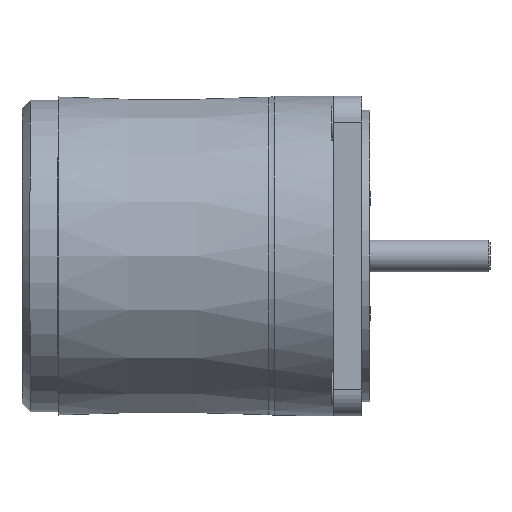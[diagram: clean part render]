
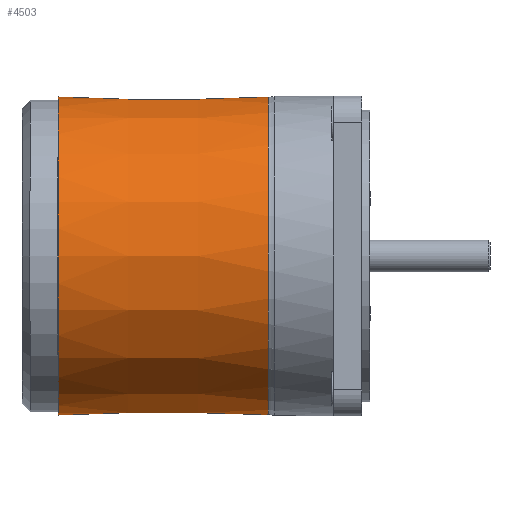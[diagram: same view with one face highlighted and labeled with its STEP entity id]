
A CAD part, front view. The second image highlights one B-rep face of the part: STEP entity #4503.
In plain terms, the highlighted conical face has half-angle 0.073 degrees and reference radius 39.784 mm.
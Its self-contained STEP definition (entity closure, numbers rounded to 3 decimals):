
#116=(
BOUNDED_CURVE()
B_SPLINE_CURVE(2,(#8074,#8075,#8076),.UNSPECIFIED.,.F.,.F.)
B_SPLINE_CURVE_WITH_KNOTS((3,3),(0.114,3.908),
 .UNSPECIFIED.)
CURVE()
GEOMETRIC_REPRESENTATION_ITEM()
RATIONAL_B_SPLINE_CURVE((1.,1.,1.))
REPRESENTATION_ITEM('')
);
#172=FACE_BOUND('',#957,.T.);
#242=CONICAL_SURFACE('',#4943,39.784,0.073);
#299=B_SPLINE_CURVE_WITH_KNOTS('',3,(#8061,#8062,#8063,#8064,#8065,#8066,
#8067,#8068,#8069,#8070,#8071,#8072),.UNSPECIFIED.,.F.,.F.,(4,2,2,2,2,4),
(-0.001,0.,0.027,0.048,0.073,
0.103),.UNSPECIFIED.);
#300=B_SPLINE_CURVE_WITH_KNOTS('',3,(#8082,#8083,#8084,#8085),
 .UNSPECIFIED.,.F.,.F.,(4,4),(-5.75,-1.842),
 .UNSPECIFIED.);
#301=B_SPLINE_CURVE_WITH_KNOTS('',3,(#8087,#8088,#8089,#8090),
 .UNSPECIFIED.,.F.,.F.,(4,4),(5.75,5.8),
 .UNSPECIFIED.);
#672=FACE_OUTER_BOUND('',#956,.T.);
#956=EDGE_LOOP('',(#3836,#3837,#3838,#3839,#3840,#3841,#3842));
#957=EDGE_LOOP('',(#3843));
#1218=CIRCLE('',#4932,39.75);
#1226=CIRCLE('',#4944,39.817);
#1227=CIRCLE('',#4945,39.817);
#1228=CIRCLE('',#4946,39.767);
#2159=VERTEX_POINT('',#8030);
#2170=VERTEX_POINT('',#8059);
#2171=VERTEX_POINT('',#8060);
#2172=VERTEX_POINT('',#8073);
#2173=VERTEX_POINT('',#8077);
#2174=VERTEX_POINT('',#8079);
#2175=VERTEX_POINT('',#8081);
#2176=VERTEX_POINT('',#8086);
#2739=EDGE_CURVE('',#2159,#2159,#1218,.T.);
#2750=EDGE_CURVE('',#2170,#2171,#299,.T.);
#2751=EDGE_CURVE('',#2171,#2172,#116,.T.);
#2752=EDGE_CURVE('',#2173,#2172,#1226,.T.);
#2753=EDGE_CURVE('',#2174,#2173,#1227,.T.);
#2754=EDGE_CURVE('',#2175,#2174,#300,.T.);
#2755=EDGE_CURVE('',#2175,#2176,#301,.T.);
#2756=EDGE_CURVE('',#2170,#2176,#1228,.T.);
#3836=ORIENTED_EDGE('',*,*,#2750,.T.);
#3837=ORIENTED_EDGE('',*,*,#2751,.T.);
#3838=ORIENTED_EDGE('',*,*,#2752,.F.);
#3839=ORIENTED_EDGE('',*,*,#2753,.F.);
#3840=ORIENTED_EDGE('',*,*,#2754,.F.);
#3841=ORIENTED_EDGE('',*,*,#2755,.T.);
#3842=ORIENTED_EDGE('',*,*,#2756,.F.);
#3843=ORIENTED_EDGE('',*,*,#2739,.T.);
#4503=ADVANCED_FACE('',(#672,#172),#242,.T.);
#4932=AXIS2_PLACEMENT_3D('',#8031,#5969,#5970);
#4943=AXIS2_PLACEMENT_3D('',#8058,#5993,#5994);
#4944=AXIS2_PLACEMENT_3D('',#8078,#5995,#5996);
#4945=AXIS2_PLACEMENT_3D('',#8080,#5997,#5998);
#4946=AXIS2_PLACEMENT_3D('',#8091,#5999,#6000);
#5969=DIRECTION('center_axis',(1.,0.,0.));
#5970=DIRECTION('ref_axis',(0.,1.,0.));
#5993=DIRECTION('center_axis',(1.,0.,0.));
#5994=DIRECTION('ref_axis',(0.,1.,0.));
#5995=DIRECTION('center_axis',(1.,0.,0.));
#5996=DIRECTION('ref_axis',(0.,1.,0.));
#5997=DIRECTION('center_axis',(1.,0.,0.));
#5998=DIRECTION('ref_axis',(0.,1.,0.));
#5999=DIRECTION('center_axis',(1.,0.,0.));
#6000=DIRECTION('ref_axis',(0.,1.,0.01));
#8030=CARTESIAN_POINT('',(9.,39.75,0.));
#8031=CARTESIAN_POINT('Origin',(9.,0.,0.));
#8058=CARTESIAN_POINT('Origin',(35.288,0.,0.));
#8059=CARTESIAN_POINT('',(22.001,28.641,-27.587));
#8060=CARTESIAN_POINT('',(23.636,28.041,-28.2));
#8061=CARTESIAN_POINT('Ctrl Pts',(22.001,28.641,-27.587));
#8062=CARTESIAN_POINT('Ctrl Pts',(22.002,28.64,-27.589));
#8063=CARTESIAN_POINT('Ctrl Pts',(22.003,28.638,-27.59));
#8064=CARTESIAN_POINT('Ctrl Pts',(22.044,28.581,-27.65));
#8065=CARTESIAN_POINT('Ctrl Pts',(22.115,28.498,-27.736));
#8066=CARTESIAN_POINT('Ctrl Pts',(22.343,28.338,-27.9));
#8067=CARTESIAN_POINT('Ctrl Pts',(22.457,28.278,-27.96));
#8068=CARTESIAN_POINT('Ctrl Pts',(22.724,28.17,-28.07));
#8069=CARTESIAN_POINT('Ctrl Pts',(22.88,28.126,-28.114));
#8070=CARTESIAN_POINT('Ctrl Pts',(23.234,28.058,-28.182));
#8071=CARTESIAN_POINT('Ctrl Pts',(23.435,28.041,-28.2));
#8072=CARTESIAN_POINT('Ctrl Pts',(23.636,28.041,-28.2));
#8073=CARTESIAN_POINT('',(61.576,28.11,-28.2));
#8074=CARTESIAN_POINT('Ctrl Pts',(23.636,28.041,-28.2));
#8075=CARTESIAN_POINT('Ctrl Pts',(42.583,28.076,-28.2));
#8076=CARTESIAN_POINT('Ctrl Pts',(61.576,28.11,-28.2));
#8077=CARTESIAN_POINT('',(61.576,27.541,28.756));
#8078=CARTESIAN_POINT('Origin',(61.576,0.,0.));
#8079=CARTESIAN_POINT('',(61.576,27.542,28.756));
#8080=CARTESIAN_POINT('Origin',(61.576,0.,0.));
#8081=CARTESIAN_POINT('',(22.5,27.471,28.754));
#8082=CARTESIAN_POINT('Ctrl Pts',(22.5,27.471,28.754));
#8083=CARTESIAN_POINT('Ctrl Pts',(35.525,27.495,28.754));
#8084=CARTESIAN_POINT('Ctrl Pts',(48.55,27.518,28.755));
#8085=CARTESIAN_POINT('Ctrl Pts',(61.576,27.542,28.756));
#8086=CARTESIAN_POINT('',(22.001,27.47,28.754));
#8087=CARTESIAN_POINT('Ctrl Pts',(22.5,27.471,28.754));
#8088=CARTESIAN_POINT('Ctrl Pts',(22.334,27.471,28.754));
#8089=CARTESIAN_POINT('Ctrl Pts',(22.167,27.47,28.754));
#8090=CARTESIAN_POINT('Ctrl Pts',(22.001,27.47,28.754));
#8091=CARTESIAN_POINT('Origin',(22.001,0.,0.));
